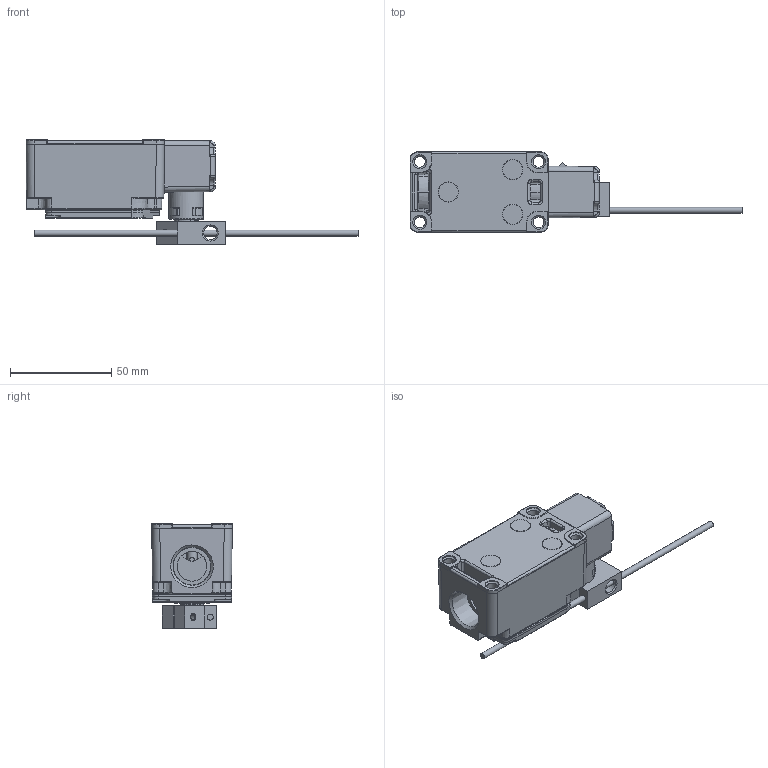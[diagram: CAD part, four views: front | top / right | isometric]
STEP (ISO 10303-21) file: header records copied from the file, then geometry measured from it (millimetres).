
FILE_DESCRIPTION(('FreeCAD Model'),'2;1');
FILE_NAME('Open CASCADE Shape Model','2026-09-09T09:13:25',(''),(''), 'Open CASCADE STEP processor 7.8','FreeCAD','Unknown');
FILE_SCHEMA(('AUTOMOTIVE_DESIGN { 1 0 10303 214 1 1 1 1 }'));
Length unit declared in the file: millimetre
Products named in the file (8): FM5107; 1; 2; 3; 4; 5; 6; 7
Assembly tree (7 placements, depth 2):
  FM5107
    1
    2
    3
    4
    5
    6
    7
Bounding box: 164.11 x 39.83 x 51.44 mm (x, y, z)
Volume: 63600.8 mm3; surface area: 41390 mm2
Topology: 7 solids, 7 shells, 904 faces, 2284 edges, 1420 vertices
Faces by surface type: plane 328, cylinder 311, cone 95, torus 81, bspline 67, sphere 22
Full cylindrical faces by diameter (mm): 2.5 x4, 2.6 x1, 2.687 x3, 3 x4, 3.394 x2, 3.402 x1, 3.8 x4, 4.221 x3, 4.3 x1, 4.379 x3, 5 x1, 5.4 x4, 6.6 x1, 6.8 x1, 6.966 x4, 7 x1, 9.95 x1, 9.952 x3, 10 x3, 12 x1, 13 x1, 14.689 x1, 17 x1
Entity records: 29570 total; most frequent: CARTESIAN_POINT 7844, ORIENTED_EDGE 4552, DIRECTION 4506, EDGE_CURVE 2276, AXIS2_PLACEMENT_3D 1711, VERTEX_POINT 1420, LINE 1084, VECTOR 1084
